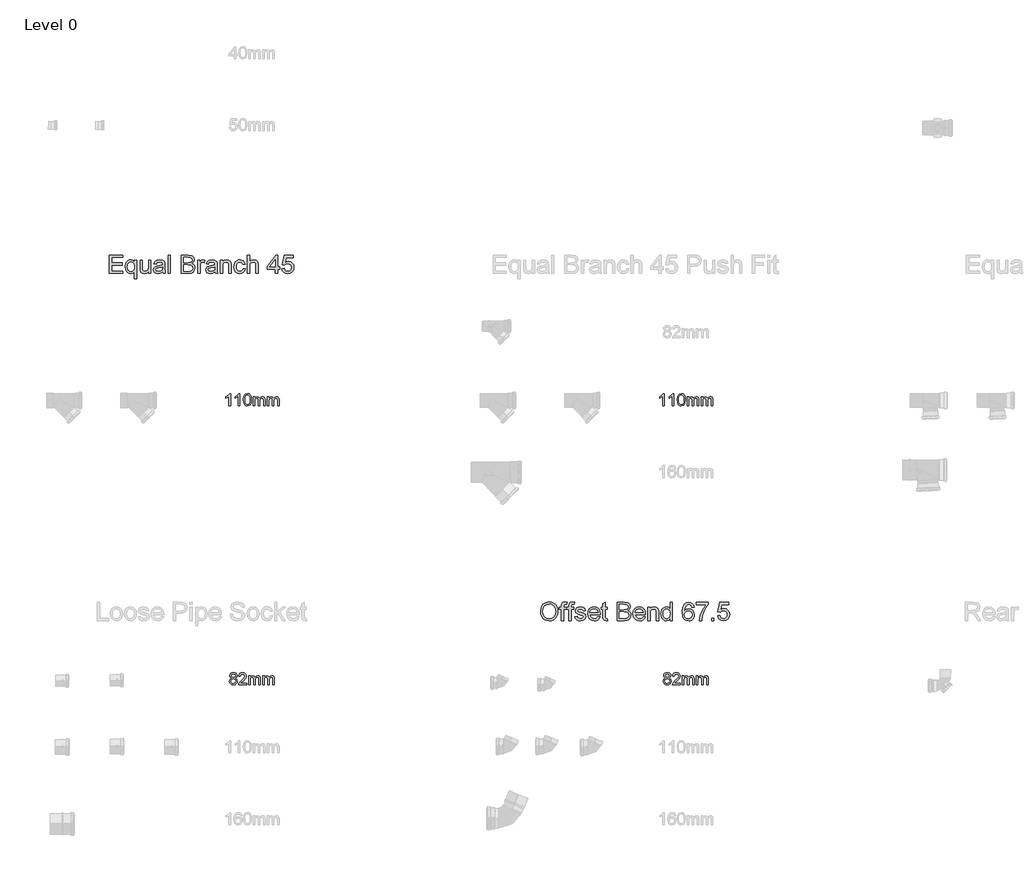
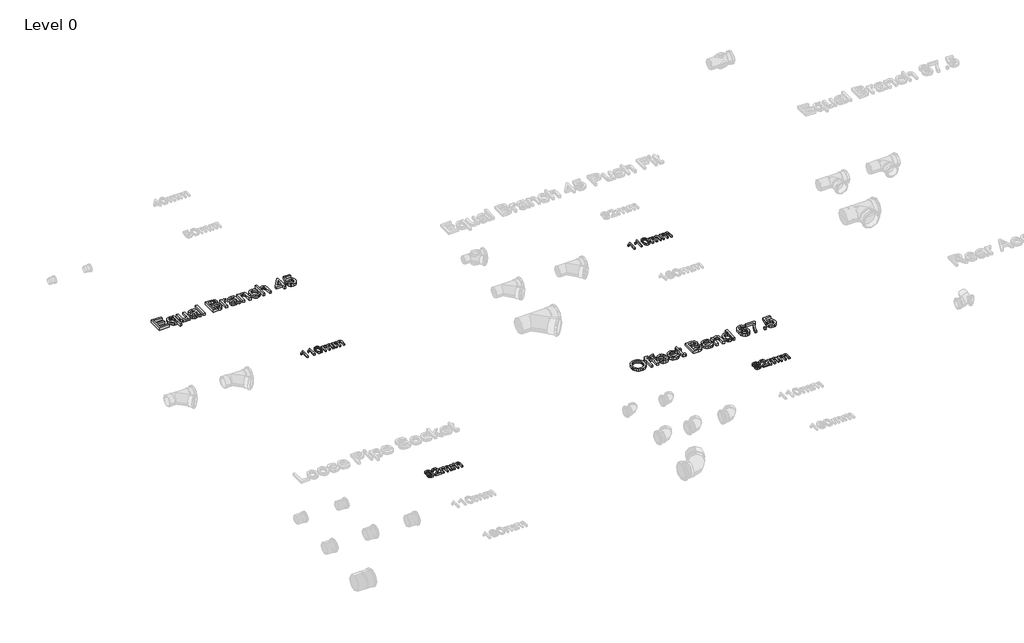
# One storey, part 6 of 23: 6 proxies.
"""IFC4 building model written with IfcOpenShell, lengths in millimetres."""

from ifc_helpers import new_model, si_unit, origin, origin_with_axes, place, context, project, spatial, polyline, outline, extrude, element, save

model = new_model("IFC4")

# Units and contexts
model_context = context("Model", 3, world=origin())
ifc_project = project(units=[si_unit("LENGTHUNIT", "METRE", prefix="MILLI")], contexts=[model_context])

# Site, building, storey
site = spatial("IfcSite", under=ifc_project)
building = spatial("IfcBuilding", under=site)
storey = spatial("IfcBuildingStorey", under=building, Name="Level 0", Elevation=0.0)

# Proxies
placement = place(None, origin())
element("IfcBuildingElementProxy", 1, Name="100mm Arial", ObjectType="100mm Arial", at=placement, inside=storey, context=model_context, shape_type="SweptSolid", body=[
    extrude(outline(polyline([(-20791.7293188, 2637.7167304), (-20804.0370111, 2637.7167304), (-20804.0370111, 2714.4474996), (-20815.6956649, 2706.1422111), (-20828.6523957, 2699.9282688), (-20828.6523957, 2711.5628842), (-20810.6115303, 2723.0773073), (-20799.6620111, 2736.1782688), (-20791.7293188, 2736.1782688), (-20791.7293188, 2637.7167304)])), origin_with_axes(), (0.0, 0.0, 1.0), 15.0),
    extrude(outline(polyline([(-20716.3447034, 2637.7167304), (-20728.6523957, 2637.7167304), (-20728.6523957, 2714.4474996), (-20740.3110495, 2706.1422111), (-20753.2677803, 2699.9282688), (-20753.2677803, 2711.5628842), (-20735.2269149, 2723.0773073), (-20724.2773957, 2736.1782688), (-20716.3447034, 2736.1782688), (-20716.3447034, 2637.7167304)])), origin_with_axes(), (0.0, 0.0, 1.0), 15.0),
    extrude(outline(polyline([(-20687.1139341, 2686.1542304), (-20683.4961457, 2714.4835573), (-20672.7509534, 2730.8176919), (-20654.8062418, 2736.1782688), (-20640.4312418, 2733.0051919), (-20630.5033572, 2723.8585573), (-20624.7341264, 2709.2912496), (-20622.4985495, 2686.1542304), (-20626.0802803, 2657.9450958), (-20636.7894149, 2641.5749035), (-20654.8062418, 2636.1782688), (-20667.5947034, 2638.5220188), (-20677.3062418, 2645.5532688), (-20684.6620111, 2662.2059131), (-20687.1139341, 2686.1542304)]), holes=[polyline([(-20674.8062418, 2686.1782688), (-20673.3639341, 2666.8182929), (-20669.0370111, 2655.613365), (-20662.5947034, 2650.2678121), (-20654.8062418, 2648.4859611), (-20647.0177803, 2650.2738217), (-20640.5754726, 2655.6374035), (-20636.2485495, 2666.848341), (-20634.8062418, 2686.1782688), (-20636.2004726, 2705.1025477), (-20640.3831649, 2716.394615), (-20646.8134534, 2722.0015861), (-20654.9504726, 2723.8705765), (-20662.6547995, 2722.2239419), (-20668.8447034, 2717.2840381), (-20673.3158572, 2705.2888458), (-20674.8062418, 2686.1782688)])]), origin_with_axes(), (0.0, 0.0, 1.0), 15.0),
    extrude(outline(polyline([(-20608.6523957, 2637.7167304), (-20608.6523957, 2710.0244227), (-20596.3447034, 2710.0244227), (-20596.3447034, 2698.1253842), (-20587.8831649, 2707.8729804), (-20575.8398957, 2711.5628842), (-20563.5081649, 2707.800865), (-20556.7293188, 2697.2599996), (-20547.1259534, 2707.9871631), (-20534.9985495, 2711.5628842), (-20525.7467466, 2710.0755044), (-20518.9047995, 2705.613365), (-20514.6770351, 2698.0562736), (-20513.2677803, 2687.2840381), (-20513.2677803, 2637.7167304), (-20525.5754726, 2637.7167304), (-20525.5754726, 2681.9955765), (-20526.7172995, 2692.2720188), (-20530.8519149, 2697.332115), (-20537.8831649, 2699.2551919), (-20549.9865303, 2694.3273073), (-20554.8062418, 2678.5340381), (-20554.8062418, 2637.7167304), (-20567.1139341, 2637.7167304), (-20567.1139341, 2683.3657688), (-20569.9624918, 2695.2888458), (-20579.3014341, 2699.2551919), (-20588.4120111, 2696.6109611), (-20594.4697034, 2688.8705765), (-20596.3447034, 2674.1830765), (-20596.3447034, 2637.7167304), (-20608.6523957, 2637.7167304)])), origin_with_axes(), (0.0, 0.0, 1.0), 15.0),
    extrude(outline(polyline([(-20494.8062418, 2637.7167304), (-20494.8062418, 2710.0244227), (-20482.4985495, 2710.0244227), (-20482.4985495, 2698.1253842), (-20474.0370111, 2707.8729804), (-20461.9937418, 2711.5628842), (-20449.6620111, 2707.800865), (-20442.8831649, 2697.2599996), (-20433.2797995, 2707.9871631), (-20421.1523957, 2711.5628842), (-20411.9005928, 2710.0755044), (-20405.0586457, 2705.613365), (-20400.8308813, 2698.0562736), (-20399.4216264, 2687.2840381), (-20399.4216264, 2637.7167304), (-20411.7293188, 2637.7167304), (-20411.7293188, 2681.9955765), (-20412.8711457, 2692.2720188), (-20417.0057611, 2697.332115), (-20424.0370111, 2699.2551919), (-20436.1403764, 2694.3273073), (-20440.960088, 2678.5340381), (-20440.960088, 2637.7167304), (-20453.2677803, 2637.7167304), (-20453.2677803, 2683.3657688), (-20456.116338, 2695.2888458), (-20465.4552803, 2699.2551919), (-20474.5658572, 2696.6109611), (-20480.6235495, 2688.8705765), (-20482.4985495, 2674.1830765), (-20482.4985495, 2637.7167304), (-20494.8062418, 2637.7167304)])), origin_with_axes(), (0.0, 0.0, 1.0), 15.0),
])
element("IfcBuildingElementProxy", 2, Name="100mm Arial", ObjectType="100mm Arial", at=placement, inside=storey, context=model_context, shape_type="SweptSolid", body=[
    extrude(outline(polyline([(-17291.7293188, 2637.7167304), (-17304.0370111, 2637.7167304), (-17304.0370111, 2714.4474996), (-17315.6956649, 2706.1422111), (-17328.6523957, 2699.9282688), (-17328.6523957, 2711.5628842), (-17310.6115303, 2723.0773073), (-17299.6620111, 2736.1782688), (-17291.7293188, 2736.1782688), (-17291.7293188, 2637.7167304)])), origin_with_axes(), (0.0, 0.0, 1.0), 15.0),
    extrude(outline(polyline([(-17216.3447034, 2637.7167304), (-17228.6523957, 2637.7167304), (-17228.6523957, 2714.4474996), (-17240.3110495, 2706.1422111), (-17253.2677803, 2699.9282688), (-17253.2677803, 2711.5628842), (-17235.2269149, 2723.0773073), (-17224.2773957, 2736.1782688), (-17216.3447034, 2736.1782688), (-17216.3447034, 2637.7167304)])), origin_with_axes(), (0.0, 0.0, 1.0), 15.0),
    extrude(outline(polyline([(-17187.1139341, 2686.1542304), (-17183.4961457, 2714.4835573), (-17172.7509534, 2730.8176919), (-17154.8062418, 2736.1782688), (-17140.4312418, 2733.0051919), (-17130.5033572, 2723.8585573), (-17124.7341264, 2709.2912496), (-17122.4985495, 2686.1542304), (-17126.0802803, 2657.9450958), (-17136.7894149, 2641.5749035), (-17154.8062418, 2636.1782688), (-17167.5947034, 2638.5220188), (-17177.3062418, 2645.5532688), (-17184.6620111, 2662.2059131), (-17187.1139341, 2686.1542304)]), holes=[polyline([(-17174.8062418, 2686.1782688), (-17173.3639341, 2666.8182929), (-17169.0370111, 2655.613365), (-17162.5947034, 2650.2678121), (-17154.8062418, 2648.4859611), (-17147.0177803, 2650.2738217), (-17140.5754726, 2655.6374035), (-17136.2485495, 2666.848341), (-17134.8062418, 2686.1782688), (-17136.2004726, 2705.1025477), (-17140.3831649, 2716.394615), (-17146.8134534, 2722.0015861), (-17154.9504726, 2723.8705765), (-17162.6547995, 2722.2239419), (-17168.8447034, 2717.2840381), (-17173.3158572, 2705.2888458), (-17174.8062418, 2686.1782688)])]), origin_with_axes(), (0.0, 0.0, 1.0), 15.0),
    extrude(outline(polyline([(-17108.6523957, 2637.7167304), (-17108.6523957, 2710.0244227), (-17096.3447034, 2710.0244227), (-17096.3447034, 2698.1253842), (-17087.8831649, 2707.8729804), (-17075.8398957, 2711.5628842), (-17063.5081649, 2707.800865), (-17056.7293188, 2697.2599996), (-17047.1259534, 2707.9871631), (-17034.9985495, 2711.5628842), (-17025.7467466, 2710.0755044), (-17018.9047995, 2705.613365), (-17014.6770351, 2698.0562736), (-17013.2677803, 2687.2840381), (-17013.2677803, 2637.7167304), (-17025.5754726, 2637.7167304), (-17025.5754726, 2681.9955765), (-17026.7172995, 2692.2720188), (-17030.8519149, 2697.332115), (-17037.8831649, 2699.2551919), (-17049.9865303, 2694.3273073), (-17054.8062418, 2678.5340381), (-17054.8062418, 2637.7167304), (-17067.1139341, 2637.7167304), (-17067.1139341, 2683.3657688), (-17069.9624918, 2695.2888458), (-17079.3014341, 2699.2551919), (-17088.4120111, 2696.6109611), (-17094.4697034, 2688.8705765), (-17096.3447034, 2674.1830765), (-17096.3447034, 2637.7167304), (-17108.6523957, 2637.7167304)])), origin_with_axes(), (0.0, 0.0, 1.0), 15.0),
    extrude(outline(polyline([(-16994.8062418, 2637.7167304), (-16994.8062418, 2710.0244227), (-16982.4985495, 2710.0244227), (-16982.4985495, 2698.1253842), (-16974.0370111, 2707.8729804), (-16961.9937418, 2711.5628842), (-16949.6620111, 2707.800865), (-16942.8831649, 2697.2599996), (-16933.2797995, 2707.9871631), (-16921.1523957, 2711.5628842), (-16911.9005928, 2710.0755044), (-16905.0586457, 2705.613365), (-16900.8308813, 2698.0562736), (-16899.4216264, 2687.2840381), (-16899.4216264, 2637.7167304), (-16911.7293188, 2637.7167304), (-16911.7293188, 2681.9955765), (-16912.8711457, 2692.2720188), (-16917.0057611, 2697.332115), (-16924.0370111, 2699.2551919), (-16936.1403764, 2694.3273073), (-16940.960088, 2678.5340381), (-16940.960088, 2637.7167304), (-16953.2677803, 2637.7167304), (-16953.2677803, 2683.3657688), (-16956.116338, 2695.2888458), (-16965.4552803, 2699.2551919), (-16974.5658572, 2696.6109611), (-16980.6235495, 2688.8705765), (-16982.4985495, 2674.1830765), (-16982.4985495, 2637.7167304), (-16994.8062418, 2637.7167304)])), origin_with_axes(), (0.0, 0.0, 1.0), 15.0),
])
element("IfcBuildingElementProxy", 3, Name="100mm Arial", ObjectType="100mm Arial", at=placement, inside=storey, context=model_context, shape_type="SweptSolid", body=[
    extrude(outline(polyline([(-20782.2581649, 440.881174), (-20793.4721072, 448.5254048), (-20797.1139341, 460.4244433), (-20795.1307611, 470.0458375), (-20789.1812418, 477.9965587), (-20779.9324438, 483.3330971), (-20768.0514341, 485.1119433), (-20756.0983091, 483.2910298), (-20746.7293188, 477.8282894), (-20740.6716264, 469.7513663), (-20738.6523957, 460.0879048), (-20742.2461457, 448.4893471), (-20753.147588, 440.881174), (-20740.0586457, 431.2297317), (-20735.5754726, 415.304251), (-20737.7990303, 403.537424), (-20744.4697034, 393.8138663), (-20754.7701841, 387.287424), (-20767.8831649, 385.1119433), (-20780.9961457, 387.2964385), (-20791.2966264, 393.849924), (-20797.9672995, 403.6666308), (-20800.1908572, 415.6407894), (-20795.5273957, 431.9388663), (-20782.2581649, 440.881174)]), holes=[polyline([(-20784.8062418, 460.0638663), (-20780.4432611, 450.4004048), (-20767.7389341, 446.6504048), (-20755.2870111, 450.3763663), (-20750.960088, 459.5109817), (-20755.4312418, 468.9701163), (-20767.8831649, 472.804251), (-20780.3711457, 469.054251), (-20784.8062418, 460.0638663)]), polyline([(-20787.8831649, 416.0734817), (-20785.8278764, 406.8066548), (-20778.5562418, 399.8715587), (-20767.7870111, 397.4196356), (-20753.1235495, 402.5758856), (-20747.8831649, 415.6888663), (-20753.2918188, 429.054251), (-20759.7221072, 433.0205971), (-20768.1956649, 434.3427125), (-20782.678838, 429.1263663), (-20787.8831649, 416.0734817)])]), origin_with_axes(), (0.0, 0.0, 1.0), 15.0),
    extrude(outline(polyline([(-20661.7293188, 398.9580971), (-20661.7293188, 386.6504048), (-20726.3447034, 386.6504048), (-20725.022588, 395.1359817), (-20717.5466264, 408.2008856), (-20702.1379726, 422.4677125), (-20680.8879726, 442.9725202), (-20675.5754726, 456.9148279), (-20680.5874918, 468.2008856), (-20693.6764341, 472.804251), (-20707.3182611, 468.3090587), (-20712.4985495, 455.881174), (-20724.8062418, 457.4196356), (-20721.8224678, 469.3246837), (-20715.3711457, 478.0205971), (-20705.7888139, 483.3391067), (-20693.4120111, 485.1119433), (-20680.9450639, 483.1407894), (-20671.3807611, 477.2273279), (-20665.2960255, 468.3931933), (-20663.2677803, 457.6600202), (-20665.4552803, 445.9893471), (-20672.7269149, 433.9220394), (-20690.3591264, 417.0590587), (-20704.5177803, 405.2201163), (-20710.0706649, 398.9580971), (-20661.7293188, 398.9580971)])), origin_with_axes(), (0.0, 0.0, 1.0), 15.0),
    extrude(outline(polyline([(-20646.3447034, 386.6504048), (-20646.3447034, 458.9580971), (-20634.0370111, 458.9580971), (-20634.0370111, 447.0590587), (-20625.5754726, 456.8066548), (-20613.5322034, 460.4965587), (-20601.2004726, 456.7345394), (-20594.4216264, 446.193674), (-20584.8182611, 456.9208375), (-20572.6908572, 460.4965587), (-20563.4390543, 459.0091788), (-20556.5971072, 454.5470394), (-20552.3693428, 446.9899481), (-20550.960088, 436.2177125), (-20550.960088, 386.6504048), (-20563.2677803, 386.6504048), (-20563.2677803, 430.929251), (-20564.4096072, 441.2056933), (-20568.5442226, 446.2657894), (-20575.5754726, 448.1888663), (-20587.678838, 443.2609817), (-20592.4985495, 427.4677125), (-20592.4985495, 386.6504048), (-20604.8062418, 386.6504048), (-20604.8062418, 432.2994433), (-20607.6547995, 444.2225202), (-20616.9937418, 448.1888663), (-20626.1043188, 445.5446356), (-20632.1620111, 437.804251), (-20634.0370111, 423.116751), (-20634.0370111, 386.6504048), (-20646.3447034, 386.6504048)])), origin_with_axes(), (0.0, 0.0, 1.0), 15.0),
    extrude(outline(polyline([(-20532.4985495, 386.6504048), (-20532.4985495, 458.9580971), (-20520.1908572, 458.9580971), (-20520.1908572, 447.0590587), (-20511.7293188, 456.8066548), (-20499.6860495, 460.4965587), (-20487.3543188, 456.7345394), (-20480.5754726, 446.193674), (-20470.9721072, 456.9208375), (-20458.8447034, 460.4965587), (-20449.5929005, 459.0091788), (-20442.7509534, 454.5470394), (-20438.5231889, 446.9899481), (-20437.1139341, 436.2177125), (-20437.1139341, 386.6504048), (-20449.4216264, 386.6504048), (-20449.4216264, 430.929251), (-20450.5634534, 441.2056933), (-20454.6980688, 446.2657894), (-20461.7293188, 448.1888663), (-20473.8326841, 443.2609817), (-20478.6523957, 427.4677125), (-20478.6523957, 386.6504048), (-20490.960088, 386.6504048), (-20490.960088, 432.2994433), (-20493.8086457, 444.2225202), (-20503.147588, 448.1888663), (-20512.2581649, 445.5446356), (-20518.3158572, 437.804251), (-20520.1908572, 423.116751), (-20520.1908572, 386.6504048), (-20532.4985495, 386.6504048)])), origin_with_axes(), (0.0, 0.0, 1.0), 15.0),
])
element("IfcBuildingElementProxy", 4, Name="100mm Arial", ObjectType="100mm Arial", at=placement, inside=storey, context=model_context, shape_type="SweptSolid", body=[
    extrude(outline(polyline([(-17282.2581649, 440.881174), (-17293.4721072, 448.5254048), (-17297.1139341, 460.4244433), (-17295.1307611, 470.0458375), (-17289.1812418, 477.9965587), (-17279.9324438, 483.3330971), (-17268.0514341, 485.1119433), (-17256.0983091, 483.2910298), (-17246.7293188, 477.8282894), (-17240.6716264, 469.7513663), (-17238.6523957, 460.0879048), (-17242.2461457, 448.4893471), (-17253.147588, 440.881174), (-17240.0586457, 431.2297317), (-17235.5754726, 415.304251), (-17237.7990303, 403.537424), (-17244.4697034, 393.8138663), (-17254.7701841, 387.287424), (-17267.8831649, 385.1119433), (-17280.9961457, 387.2964385), (-17291.2966264, 393.849924), (-17297.9672995, 403.6666308), (-17300.1908572, 415.6407894), (-17295.5273957, 431.9388663), (-17282.2581649, 440.881174)]), holes=[polyline([(-17284.8062418, 460.0638663), (-17280.4432611, 450.4004048), (-17267.7389341, 446.6504048), (-17255.2870111, 450.3763663), (-17250.960088, 459.5109817), (-17255.4312418, 468.9701163), (-17267.8831649, 472.804251), (-17280.3711457, 469.054251), (-17284.8062418, 460.0638663)]), polyline([(-17287.8831649, 416.0734817), (-17285.8278764, 406.8066548), (-17278.5562418, 399.8715587), (-17267.7870111, 397.4196356), (-17253.1235495, 402.5758856), (-17247.8831649, 415.6888663), (-17253.2918188, 429.054251), (-17259.7221072, 433.0205971), (-17268.1956649, 434.3427125), (-17282.678838, 429.1263663), (-17287.8831649, 416.0734817)])]), origin_with_axes(), (0.0, 0.0, 1.0), 15.0),
    extrude(outline(polyline([(-17161.7293188, 398.9580971), (-17161.7293188, 386.6504048), (-17226.3447034, 386.6504048), (-17225.022588, 395.1359817), (-17217.5466264, 408.2008856), (-17202.1379726, 422.4677125), (-17180.8879726, 442.9725202), (-17175.5754726, 456.9148279), (-17180.5874918, 468.2008856), (-17193.6764341, 472.804251), (-17207.3182611, 468.3090587), (-17212.4985495, 455.881174), (-17224.8062418, 457.4196356), (-17221.8224678, 469.3246837), (-17215.3711457, 478.0205971), (-17205.7888139, 483.3391067), (-17193.4120111, 485.1119433), (-17180.9450639, 483.1407894), (-17171.3807611, 477.2273279), (-17165.2960255, 468.3931933), (-17163.2677803, 457.6600202), (-17165.4552803, 445.9893471), (-17172.7269149, 433.9220394), (-17190.3591264, 417.0590587), (-17204.5177803, 405.2201163), (-17210.0706649, 398.9580971), (-17161.7293188, 398.9580971)])), origin_with_axes(), (0.0, 0.0, 1.0), 15.0),
    extrude(outline(polyline([(-17146.3447034, 386.6504048), (-17146.3447034, 458.9580971), (-17134.0370111, 458.9580971), (-17134.0370111, 447.0590587), (-17125.5754726, 456.8066548), (-17113.5322034, 460.4965587), (-17101.2004726, 456.7345394), (-17094.4216264, 446.193674), (-17084.8182611, 456.9208375), (-17072.6908572, 460.4965587), (-17063.4390543, 459.0091788), (-17056.5971072, 454.5470394), (-17052.3693428, 446.9899481), (-17050.960088, 436.2177125), (-17050.960088, 386.6504048), (-17063.2677803, 386.6504048), (-17063.2677803, 430.929251), (-17064.4096072, 441.2056933), (-17068.5442226, 446.2657894), (-17075.5754726, 448.1888663), (-17087.678838, 443.2609817), (-17092.4985495, 427.4677125), (-17092.4985495, 386.6504048), (-17104.8062418, 386.6504048), (-17104.8062418, 432.2994433), (-17107.6547995, 444.2225202), (-17116.9937418, 448.1888663), (-17126.1043188, 445.5446356), (-17132.1620111, 437.804251), (-17134.0370111, 423.116751), (-17134.0370111, 386.6504048), (-17146.3447034, 386.6504048)])), origin_with_axes(), (0.0, 0.0, 1.0), 15.0),
    extrude(outline(polyline([(-17032.4985495, 386.6504048), (-17032.4985495, 458.9580971), (-17020.1908572, 458.9580971), (-17020.1908572, 447.0590587), (-17011.7293188, 456.8066548), (-16999.6860495, 460.4965587), (-16987.3543188, 456.7345394), (-16980.5754726, 446.193674), (-16970.9721072, 456.9208375), (-16958.8447034, 460.4965587), (-16949.5929005, 459.0091788), (-16942.7509534, 454.5470394), (-16938.5231889, 446.9899481), (-16937.1139341, 436.2177125), (-16937.1139341, 386.6504048), (-16949.4216264, 386.6504048), (-16949.4216264, 430.929251), (-16950.5634534, 441.2056933), (-16954.6980688, 446.2657894), (-16961.7293188, 448.1888663), (-16973.8326841, 443.2609817), (-16978.6523957, 427.4677125), (-16978.6523957, 386.6504048), (-16990.960088, 386.6504048), (-16990.960088, 432.2994433), (-16993.8086457, 444.2225202), (-17003.147588, 448.1888663), (-17012.2581649, 445.5446356), (-17018.3158572, 437.804251), (-17020.1908572, 423.116751), (-17020.1908572, 386.6504048), (-17032.4985495, 386.6504048)])), origin_with_axes(), (0.0, 0.0, 1.0), 15.0),
])
element("IfcBuildingElementProxy", 5, Name="150mm Arial", ObjectType="150mm Arial", at=placement, inside=storey, context=model_context, shape_type="SweptSolid", body=[
    extrude(outline(polyline([(-21768.6818358, 3705.2145219), (-21768.6818358, 3852.9068296), (-21662.5279897, 3852.9068296), (-21662.5279897, 3834.4452911), (-21750.2202973, 3834.4452911), (-21750.2202973, 3790.5991373), (-21667.1433743, 3790.5991373), (-21667.1433743, 3772.1375988), (-21750.2202973, 3772.1375988), (-21750.2202973, 3723.6760604), (-21660.2202973, 3723.6760604), (-21660.2202973, 3705.2145219), (-21768.6818358, 3705.2145219)])), origin_with_axes(), (0.0, 0.0, 1.0), 25.0),
    extrude(outline(polyline([(-21567.912605, 3663.6760604), (-21567.912605, 3719.9981758), (-21579.631355, 3707.7746181), (-21595.6409704, 3702.9068296), (-21613.1920522, 3706.7514811), (-21628.1289512, 3718.2854354), (-21638.351307, 3736.5171061), (-21641.7587589, 3760.4549065), (-21636.350105, 3789.697695), (-21629.7245041, 3801.0738969), (-21620.6650089, 3809.3130796), (-21609.8927733, 3814.3160844), (-21598.1289512, 3815.9837527), (-21580.9654897, 3810.8094738), (-21567.912605, 3795.2866373), (-21567.912605, 3813.6760604), (-21549.4510666, 3813.6760604), (-21549.4510666, 3663.6760604), (-21567.912605, 3663.6760604)]), holes=[polyline([(-21623.2972204, 3759.4452911), (-21621.2193959, 3742.7866373), (-21614.9859223, 3730.8875988), (-21605.8498046, 3723.7481758), (-21595.0640473, 3721.3683681), (-21584.7290113, 3723.6309883), (-21575.9354416, 3730.4188488), (-21569.9183142, 3741.8311085), (-21567.912605, 3757.9669258), (-21570.0264872, 3775.2160243), (-21576.3681339, 3787.58832), (-21585.5583382, 3795.0387407), (-21596.2178935, 3797.5222142), (-21606.6791315, 3795.2100147), (-21615.4186147, 3788.2734161), (-21621.327569, 3776.4419859), (-21623.2972204, 3759.4452911)])]), origin_with_axes(), (0.0, 0.0, 1.0), 25.0),
    extrude(outline(polyline([(-21452.5279897, 3705.2145219), (-21452.5279897, 3723.8563488), (-21466.9871243, 3708.1442094), (-21485.8452973, 3702.9068296), (-21503.2070762, 3706.5847142), (-21515.17823, 3715.8154835), (-21520.6770281, 3729.4092335), (-21521.7587589, 3746.572695), (-21521.7587589, 3813.6760604), (-21503.2972204, 3813.6760604), (-21503.2972204, 3755.2625988), (-21502.179432, 3736.4404835), (-21494.8777493, 3725.3888008), (-21481.1217397, 3721.3683681), (-21465.7070762, 3725.478945), (-21455.5207781, 3736.6748585), (-21452.5279897, 3757.2457719), (-21452.5279897, 3813.6760604), (-21434.0664512, 3813.6760604), (-21434.0664512, 3705.2145219), (-21452.5279897, 3705.2145219)])), origin_with_axes(), (0.0, 0.0, 1.0), 25.0),
    extrude(outline(polyline([(-21339.4510666, 3719.0606758), (-21357.3537108, 3706.5486565), (-21377.131355, 3702.9068296), (-21392.5595401, 3705.0973344), (-21403.9402493, 3711.6688488), (-21410.9579776, 3721.6478152), (-21413.2972204, 3734.0606758), (-21409.7635666, 3748.6640411), (-21400.4787108, 3759.2650027), (-21387.5520281, 3765.322695), (-21371.5784704, 3768.0991373), (-21339.5592397, 3774.4452911), (-21339.4510666, 3778.5558681), (-21340.7221002, 3786.7950508), (-21344.5352012, 3792.1856758), (-21353.0628454, 3796.1880796), (-21364.943855, 3797.5222142), (-21383.6217397, 3793.9705315), (-21392.5279897, 3781.3683681), (-21410.9895281, 3783.6760604), (-21403.0027493, 3801.7049065), (-21386.9210185, 3812.2698104), (-21362.5640473, 3815.9837527), (-21340.1902493, 3812.7025027), (-21327.5520281, 3804.46332), (-21321.8909704, 3791.9332719), (-21320.9895281, 3775.7794258), (-21320.9895281, 3752.8106758), (-21320.0520281, 3720.7373585), (-21316.3741435, 3705.2145219), (-21334.835682, 3705.2145219), (-21339.4510666, 3719.0606758)]), holes=[polyline([(-21339.4510666, 3755.9837527), (-21369.2347204, 3750.322695), (-21385.1181339, 3747.3299065), (-21392.3116435, 3742.4621181), (-21394.835682, 3735.3587527), (-21389.3368839, 3725.3707719), (-21373.2010666, 3721.3683681), (-21354.523182, 3725.7854354), (-21342.4799127, 3736.4765411), (-21339.5592397, 3750.7553873), (-21339.4510666, 3755.9837527)])]), origin_with_axes(), (0.0, 0.0, 1.0), 25.0),
    extrude(outline(polyline([(-21295.6049127, 3705.2145219), (-21295.6049127, 3852.9068296), (-21277.1433743, 3852.9068296), (-21277.1433743, 3705.2145219), (-21295.6049127, 3705.2145219)])), origin_with_axes(), (0.0, 0.0, 1.0), 25.0),
    extrude(outline(polyline([(-21189.4510666, 3705.2145219), (-21189.4510666, 3852.9068296), (-21133.0928935, 3852.9068296), (-21105.49073, 3848.5618777), (-21096.2148887, 3843.049558), (-21089.1926531, 3835.2025027), (-21083.2972204, 3816.3082719), (-21088.2551531, 3799.0546661), (-21103.2371243, 3785.9837527), (-21092.7758863, 3780.5210123), (-21085.0460185, 3772.2097142), (-21080.2728815, 3761.5997383), (-21078.6818358, 3749.2409642), (-21083.0267877, 3729.3912046), (-21093.7900089, 3715.2565892), (-21109.8537108, 3707.7565892), (-21133.5255858, 3705.2145219), (-21189.4510666, 3705.2145219)]), holes=[polyline([(-21170.9895281, 3723.6760604), (-21133.1289512, 3723.6760604), (-21119.4270281, 3724.3972142), (-21107.83448, 3728.4176469), (-21100.1541916, 3736.6207719), (-21097.1433743, 3749.0606758), (-21100.6770281, 3763.4116373), (-21112.1253454, 3771.9753392), (-21134.9318358, 3774.4452911), (-21170.9895281, 3774.4452911), (-21170.9895281, 3723.6760604)]), polyline([(-21170.9895281, 3792.9068296), (-21137.2755858, 3792.9068296), (-21117.5880858, 3794.4933681), (-21105.7431339, 3801.3263008), (-21101.7587589, 3813.3515411), (-21105.4727012, 3825.3948104), (-21116.1097204, 3832.5162046), (-21139.835682, 3834.4452911), (-21170.9895281, 3834.4452911), (-21170.9895281, 3792.9068296)])]), origin_with_axes(), (0.0, 0.0, 1.0), 25.0),
    extrude(outline(polyline([(-21055.6049127, 3705.2145219), (-21055.6049127, 3813.6760604), (-21039.4510666, 3813.6760604), (-21039.4510666, 3797.6303873), (-21027.9847204, 3812.4140411), (-21016.4462589, 3815.9837527), (-20997.912605, 3810.2866373), (-21004.0784704, 3793.7361565), (-21017.0592397, 3797.5222142), (-21027.4979416, 3793.8803873), (-21034.1505858, 3783.7842335), (-21037.1433743, 3762.2217335), (-21037.1433743, 3705.2145219), (-21055.6049127, 3705.2145219)])), origin_with_axes(), (0.0, 0.0, 1.0), 25.0),
    extrude(outline(polyline([(-20917.1433743, 3719.0606758), (-20935.0460185, 3706.5486565), (-20954.8236627, 3702.9068296), (-20970.2518478, 3705.0973344), (-20981.632557, 3711.6688488), (-20988.6502853, 3721.6478152), (-20990.9895281, 3734.0606758), (-20987.4558743, 3748.6640411), (-20978.1710185, 3759.2650027), (-20965.2443358, 3765.322695), (-20949.2707781, 3768.0991373), (-20917.2515473, 3774.4452911), (-20917.1433743, 3778.5558681), (-20918.4144079, 3786.7950508), (-20922.2275089, 3792.1856758), (-20930.7551531, 3796.1880796), (-20942.6361627, 3797.5222142), (-20961.3140473, 3793.9705315), (-20970.2202973, 3781.3683681), (-20988.6818358, 3783.6760604), (-20980.695057, 3801.7049065), (-20964.6133262, 3812.2698104), (-20940.256355, 3815.9837527), (-20917.882557, 3812.7025027), (-20905.2443358, 3804.46332), (-20899.5832781, 3791.9332719), (-20898.6818358, 3775.7794258), (-20898.6818358, 3752.8106758), (-20897.7443358, 3720.7373585), (-20894.0664512, 3705.2145219), (-20912.5279897, 3705.2145219), (-20917.1433743, 3719.0606758)]), holes=[polyline([(-20917.1433743, 3755.9837527), (-20946.9270281, 3750.322695), (-20962.8104416, 3747.3299065), (-20970.0039512, 3742.4621181), (-20972.5279897, 3735.3587527), (-20967.0291916, 3725.3707719), (-20950.8933743, 3721.3683681), (-20932.2154897, 3725.7854354), (-20920.1722204, 3736.4765411), (-20917.2515473, 3750.7553873), (-20917.1433743, 3755.9837527)])]), origin_with_axes(), (0.0, 0.0, 1.0), 25.0),
    extrude(outline(polyline([(-20873.2972204, 3705.2145219), (-20873.2972204, 3813.6760604), (-20854.835682, 3813.6760604), (-20854.835682, 3798.5318296), (-20840.7190954, 3811.6207719), (-20821.4462589, 3815.9837527), (-20804.0123647, 3812.4681277), (-20792.1133262, 3803.2373585), (-20786.5784704, 3789.6616373), (-20785.6049127, 3771.8130796), (-20785.6049127, 3705.2145219), (-20804.0664512, 3705.2145219), (-20804.0664512, 3769.3250988), (-20806.193855, 3785.6592335), (-20813.7118839, 3794.2950508), (-20826.3861627, 3797.5222142), (-20837.1989632, 3795.7103152), (-20846.4162108, 3790.2746181), (-20852.7308142, 3779.7728152), (-20854.835682, 3762.7625988), (-20854.835682, 3705.2145219), (-20873.2972204, 3705.2145219)])), origin_with_axes(), (0.0, 0.0, 1.0), 25.0),
    extrude(outline(polyline([(-20690.9895281, 3744.4452911), (-20672.5279897, 3742.1375988), (-20677.6752252, 3725.7178272), (-20687.3477012, 3713.3094738), (-20700.6349608, 3705.5074907), (-20716.6265473, 3702.9068296), (-20736.264468, 3706.5351349), (-20751.6205377, 3717.4200508), (-20761.5318959, 3735.0838128), (-20764.835682, 3759.0486565), (-20759.1926531, 3789.7157238), (-20752.0712589, 3801.2136205), (-20741.9931339, 3809.4212527), (-20729.936343, 3814.3431277), (-20716.8789512, 3815.9837527), (-20701.2794921, 3813.7301469), (-20688.8080377, 3806.9693296), (-20679.8612228, 3796.0618777), (-20674.835682, 3781.3683681), (-20693.2972204, 3779.0606758), (-20701.8609223, 3792.8888008), (-20716.7347204, 3797.5222142), (-20728.6653094, 3795.2415652), (-20738.1349608, 3788.3996181), (-20744.3143478, 3776.6267815), (-20746.3741435, 3759.5534642), (-20744.3594199, 3742.2502791), (-20738.3152493, 3730.4368777), (-20729.0168719, 3723.6354955), (-20717.2395281, 3721.3683681), (-20707.6797324, 3722.7836325), (-20699.8416916, 3727.0294258), (-20694.140069, 3734.213921), (-20690.9895281, 3744.4452911)])), origin_with_axes(), (0.0, 0.0, 1.0), 25.0),
    extrude(outline(polyline([(-20656.3741435, 3705.2145219), (-20656.3741435, 3852.9068296), (-20637.912605, 3852.9068296), (-20637.912605, 3798.603945), (-20623.5165714, 3811.6388008), (-20605.7852012, 3815.9837527), (-20585.0520281, 3811.2421661), (-20572.4678935, 3798.135195), (-20568.6818358, 3773.8683681), (-20568.6818358, 3705.2145219), (-20587.1433743, 3705.2145219), (-20587.1433743, 3771.9573104), (-20588.6127252, 3783.5138008), (-20593.0207781, 3791.4284642), (-20600.1241435, 3795.9987767), (-20609.679432, 3797.5222142), (-20624.8056339, 3793.4116373), (-20634.9017877, 3782.2698104), (-20637.912605, 3762.8347142), (-20637.912605, 3705.2145219), (-20656.3741435, 3705.2145219)])), origin_with_axes(), (0.0, 0.0, 1.0), 25.0),
    extrude(outline(polyline([(-20430.2202973, 3705.2145219), (-20430.2202973, 3739.8299065), (-20497.1433743, 3739.8299065), (-20497.1433743, 3758.291445), (-20425.6049127, 3850.5991373), (-20411.7587589, 3850.5991373), (-20411.7587589, 3758.291445), (-20393.2972204, 3758.291445), (-20393.2972204, 3739.8299065), (-20411.7587589, 3739.8299065), (-20411.7587589, 3705.2145219), (-20430.2202973, 3705.2145219)]), holes=[polyline([(-20430.2202973, 3758.291445), (-20430.2202973, 3815.3347142), (-20474.4270281, 3758.291445), (-20430.2202973, 3758.291445)])]), origin_with_axes(), (0.0, 0.0, 1.0), 25.0),
    extrude(outline(polyline([(-20377.1433743, 3744.4452911), (-20358.6818358, 3746.7529835), (-20355.2924127, 3735.6697503), (-20349.3789512, 3727.7325508), (-20340.9684945, 3722.9594137), (-20330.0880858, 3721.3683681), (-20316.8549127, 3723.5814089), (-20306.9390473, 3730.2205315), (-20300.7461387, 3740.5195099), (-20298.6818358, 3753.7121181), (-20300.6154296, 3766.1339931), (-20306.4162108, 3775.635195), (-20316.1292517, 3781.665844), (-20329.7996243, 3783.6760604), (-20346.007557, 3780.4669258), (-20356.3741435, 3772.1375988), (-20374.835682, 3774.4452911), (-20358.6818358, 3850.5991373), (-20287.1433743, 3850.5991373), (-20287.1433743, 3832.1375988), (-20343.7539512, 3832.1375988), (-20351.6505858, 3791.4645219), (-20338.4624848, 3799.4693296), (-20324.6433743, 3802.1375988), (-20307.3942757, 3798.8293056), (-20293.0748647, 3788.9044258), (-20283.4339392, 3773.7782238), (-20280.2202973, 3754.8659642), (-20283.1139272, 3736.4044258), (-20291.7948166, 3720.6111565), (-20308.4174127, 3707.3329113), (-20330.1602012, 3702.9068296), (-20348.2927132, 3705.7508801), (-20362.7383262, 3714.2830315), (-20372.6406699, 3727.5116974), (-20377.1433743, 3744.4452911)])), origin_with_axes(), (0.0, 0.0, 1.0), 25.0),
])
element("IfcBuildingElementProxy", 6, Name="150mm Arial", ObjectType="150mm Arial", at=placement, inside=storey, context=model_context, shape_type="SweptSolid", body=[
    extrude(outline(polyline([(-18290.6049127, 977.1135604), (-18285.6830377, 1009.7728152), (-18270.9174127, 1034.4813488), (-18248.3723406, 1050.0312286), (-18220.1121243, 1055.2145219), (-18200.7401291, 1052.7806277), (-18183.3693358, 1045.478945), (-18168.9462589, 1033.823296), (-18158.4174127, 1018.3275027), (-18151.9811147, 999.7397623), (-18149.835682, 978.8082719), (-18152.0937949, 957.5973344), (-18158.8681339, 938.7481758), (-18169.7846002, 923.2253392), (-18184.4690954, 911.9933681), (-18201.6911507, 905.1784642), (-18220.2202973, 902.9068296), (-18239.8897685, 905.4173464), (-18257.3597204, 912.9488969), (-18271.7467397, 924.8208921), (-18282.1674127, 940.3527431), (-18288.4955377, 958.2238368), (-18290.6049127, 977.1135604)]), holes=[polyline([(-18272.1433743, 976.9332719), (-18268.451968, 953.8293056), (-18257.3777493, 936.2241373), (-18240.7326171, 925.0823104), (-18220.3284704, 921.3683681), (-18199.6268478, 925.1183681), (-18182.9546723, 936.3683681), (-18171.9615834, 954.5144017), (-18168.2972204, 978.9525027), (-18169.86573, 995.2956517), (-18174.5712589, 1009.4212527), (-18182.2921122, 1020.9732359), (-18192.9065954, 1029.5955315), (-18205.7115834, 1034.9636205), (-18220.0039512, 1036.7529835), (-18239.8627252, 1033.3049666), (-18256.7467397, 1022.9609161), (-18268.2942156, 1004.5579714), (-18272.1433743, 976.9332719)])]), origin_with_axes(), (0.0, 0.0, 1.0), 25.0),
    extrude(outline(polyline([(-18122.1433743, 905.2145219), (-18122.1433743, 995.2145219), (-18138.2972204, 995.2145219), (-18138.2972204, 1013.6760604), (-18122.1433743, 1013.6760604), (-18122.1433743, 1024.6015411), (-18120.1962589, 1039.9981758), (-18110.7491435, 1050.9957719), (-18092.1433743, 1055.2145219), (-18075.304432, 1053.1952911), (-18078.0087589, 1035.8875988), (-18088.6457781, 1036.7529835), (-18100.2743839, 1033.6880796), (-18103.6818358, 1022.2577911), (-18103.6818358, 1013.6760604), (-18082.912605, 1013.6760604), (-18082.912605, 995.2145219), (-18103.6818358, 995.2145219), (-18103.6818358, 905.2145219), (-18122.1433743, 905.2145219)])), origin_with_axes(), (0.0, 0.0, 1.0), 25.0),
    extrude(outline(polyline([(-18062.1433743, 905.2145219), (-18062.1433743, 995.2145219), (-18078.2972204, 995.2145219), (-18078.2972204, 1013.6760604), (-18062.1433743, 1013.6760604), (-18062.1433743, 1024.6015411), (-18060.1962589, 1039.9981758), (-18050.7491435, 1050.9957719), (-18032.1433743, 1055.2145219), (-18015.304432, 1053.1952911), (-18018.0087589, 1035.8875988), (-18028.6457781, 1036.7529835), (-18040.2743839, 1033.6880796), (-18043.6818358, 1022.2577911), (-18043.6818358, 1013.6760604), (-18022.912605, 1013.6760604), (-18022.912605, 995.2145219), (-18043.6818358, 995.2145219), (-18043.6818358, 905.2145219), (-18062.1433743, 905.2145219)])), origin_with_axes(), (0.0, 0.0, 1.0), 25.0),
    extrude(outline(polyline([(-18013.6818358, 937.5222142), (-17995.2202973, 939.8299065), (-17992.3086387, 931.9332719), (-17986.6746243, 926.1279835), (-17967.0952973, 921.3683681), (-17948.273182, 925.7313488), (-17942.1433743, 935.9717335), (-17948.3092397, 944.2650027), (-17967.3116435, 949.5294258), (-17995.1121243, 958.5618777), (-18007.2455377, 969.1087527), (-18011.3741435, 984.0005796), (-18008.0568358, 997.7565892), (-17999.006355, 1008.2674065), (-17987.2695762, 1013.7301469), (-17971.3861627, 1015.9837527), (-17948.9222204, 1012.3599546), (-17934.6433743, 1002.5522623), (-17928.2972204, 985.9837527), (-17946.7587589, 983.6760604), (-17953.6998647, 993.8623585), (-17969.943855, 997.5222142), (-17987.6121243, 994.0246181), (-17992.912605, 985.8755796), (-17990.7130858, 980.5029835), (-17983.8260666, 976.4284642), (-17967.9246243, 972.4981758), (-17940.8272685, 963.8082719), (-17928.2431339, 953.9645219), (-17923.6818358, 937.9188488), (-17929.0364031, 920.2505796), (-17944.4871243, 907.43207), (-17967.3477012, 902.9068296), (-17985.9624848, 905.08832), (-17999.5472204, 911.6327911), (-18008.61573, 922.4681277), (-18013.6818358, 937.5222142)])), origin_with_axes(), (0.0, 0.0, 1.0), 25.0),
    extrude(outline(polyline([(-17826.975105, 937.5222142), (-17808.8741435, 935.2145219), (-17815.3960786, 921.5756998), (-17825.80323, 911.3803873), (-17839.8612228, 905.025219), (-17857.335682, 902.9068296), (-17878.9973406, 906.5621782), (-17895.6650089, 917.5282238), (-17906.2930137, 935.0928272), (-17909.835682, 958.5438488), (-17906.256956, 982.7836325), (-17895.5207781, 1000.9116373), (-17879.0784704, 1012.2157238), (-17858.381355, 1015.9837527), (-17838.3287709, 1012.2247383), (-17822.3056339, 1000.947695), (-17811.7993238, 982.8557479), (-17808.2972204, 958.6520219), (-17808.4053935, 953.6760604), (-17891.3741435, 953.6760604), (-17888.1785305, 939.8569498), (-17880.7551531, 929.697695), (-17870.0415113, 923.4506998), (-17856.975105, 921.3683681), (-17838.8741435, 925.2265411), (-17826.975105, 937.5222142)]), holes=[polyline([(-17891.3741435, 972.1375988), (-17826.7587589, 972.1375988), (-17829.2557541, 981.8912046), (-17834.1505858, 988.8683681), (-17844.913807, 995.3587527), (-17858.4534704, 997.5222142), (-17870.8978815, 995.7959522), (-17881.1878454, 990.6171661), (-17888.3407901, 982.5447503), (-17891.3741435, 972.1375988)])]), origin_with_axes(), (0.0, 0.0, 1.0), 25.0),
    extrude(outline(polyline([(-17750.6049127, 920.6111565), (-17748.2972204, 904.6736565), (-17762.1073166, 902.9068296), (-17777.5760666, 905.9717335), (-17785.2924127, 914.0125988), (-17787.5279897, 934.9621181), (-17787.5279897, 995.2145219), (-17801.3741435, 995.2145219), (-17801.3741435, 1013.6760604), (-17787.5279897, 1013.6760604), (-17787.5279897, 1040.0342335), (-17769.0664512, 1050.8875988), (-17769.0664512, 1013.6760604), (-17750.6049127, 1013.6760604), (-17750.6049127, 995.2145219), (-17769.0664512, 995.2145219), (-17769.0664512, 935.5029835), (-17768.0928935, 925.9837527), (-17764.9378454, 922.6123585), (-17758.6457781, 921.3683681), (-17750.6049127, 920.6111565)])), origin_with_axes(), (0.0, 0.0, 1.0), 25.0),
    extrude(outline(polyline([(-17672.1433743, 905.2145219), (-17672.1433743, 1052.9068296), (-17615.7852012, 1052.9068296), (-17588.1830377, 1048.5618777), (-17578.9071964, 1043.049558), (-17571.8849608, 1035.2025027), (-17565.9895281, 1016.3082719), (-17570.9474608, 999.0546661), (-17585.929432, 985.9837527), (-17575.468194, 980.5210123), (-17567.7383262, 972.2097142), (-17562.9651892, 961.5997383), (-17561.3741435, 949.2409642), (-17565.7190954, 929.3912046), (-17576.4823166, 915.2565892), (-17592.5460185, 907.7565892), (-17616.2178935, 905.2145219), (-17672.1433743, 905.2145219)]), holes=[polyline([(-17653.6818358, 992.9068296), (-17619.9678935, 992.9068296), (-17600.2803935, 994.4933681), (-17588.4354416, 1001.3263008), (-17584.4510666, 1013.3515411), (-17588.1650089, 1025.3948104), (-17598.8020281, 1032.5162046), (-17622.5279897, 1034.4452911), (-17653.6818358, 1034.4452911), (-17653.6818358, 992.9068296)]), polyline([(-17653.6818358, 923.6760604), (-17615.8212589, 923.6760604), (-17602.1193358, 924.3972142), (-17590.5267877, 928.4176469), (-17582.8464993, 936.6207719), (-17579.835682, 949.0606758), (-17583.3693358, 963.4116373), (-17594.8176531, 971.9753392), (-17617.6241435, 974.4452911), (-17653.6818358, 974.4452911), (-17653.6818358, 923.6760604)])]), origin_with_axes(), (0.0, 0.0, 1.0), 25.0),
    extrude(outline(polyline([(-17462.3597204, 937.5222142), (-17444.2587589, 935.2145219), (-17450.780694, 921.5756998), (-17461.1878454, 911.3803873), (-17475.2458382, 905.025219), (-17492.7202973, 902.9068296), (-17514.381956, 906.5621782), (-17531.0496243, 917.5282238), (-17541.6776291, 935.0928272), (-17545.2202973, 958.5438488), (-17541.6415714, 982.7836325), (-17530.9053935, 1000.9116373), (-17514.4630858, 1012.2157238), (-17493.7659704, 1015.9837527), (-17473.7133863, 1012.2247383), (-17457.6902493, 1000.947695), (-17447.1839392, 982.8557479), (-17443.6818358, 958.6520219), (-17443.7900089, 953.6760604), (-17526.7587589, 953.6760604), (-17523.5631459, 939.8569498), (-17516.1397685, 929.697695), (-17505.4261267, 923.4506998), (-17492.3597204, 921.3683681), (-17474.2587589, 925.2265411), (-17462.3597204, 937.5222142)]), holes=[polyline([(-17526.7587589, 972.1375988), (-17462.1433743, 972.1375988), (-17464.6403695, 981.8912046), (-17469.5352012, 988.8683681), (-17480.2984223, 995.3587527), (-17493.8380858, 997.5222142), (-17506.2824969, 995.7959522), (-17516.5724608, 990.6171661), (-17523.7254055, 982.5447503), (-17526.7587589, 972.1375988)])]), origin_with_axes(), (0.0, 0.0, 1.0), 25.0),
    extrude(outline(polyline([(-17425.2202973, 905.2145219), (-17425.2202973, 1013.6760604), (-17406.7587589, 1013.6760604), (-17406.7587589, 998.5318296), (-17392.6421723, 1011.6207719), (-17373.3693358, 1015.9837527), (-17355.9354416, 1012.4681277), (-17344.0364031, 1003.2373585), (-17338.5015473, 989.6616373), (-17337.5279897, 971.8130796), (-17337.5279897, 905.2145219), (-17355.9895281, 905.2145219), (-17355.9895281, 969.3250988), (-17358.116932, 985.6592335), (-17365.6349608, 994.2950508), (-17378.3092397, 997.5222142), (-17389.1220401, 995.7103152), (-17398.3392877, 990.2746181), (-17404.6538911, 979.7728152), (-17406.7587589, 962.7625988), (-17406.7587589, 905.2145219), (-17425.2202973, 905.2145219)])), origin_with_axes(), (0.0, 0.0, 1.0), 25.0),
    extrude(outline(polyline([(-17245.2202973, 905.2145219), (-17245.2202973, 922.6303873), (-17257.4348406, 907.837719), (-17274.318855, 902.9068296), (-17286.2539512, 904.6916854), (-17297.179432, 910.0462527), (-17306.42823, 918.596433), (-17313.3332781, 929.9681277), (-17317.6331579, 943.7016012), (-17319.0664512, 959.3371181), (-17313.7839993, 988.7241373), (-17307.1854416, 1000.3797863), (-17297.9546723, 1008.9525027), (-17286.7903094, 1014.2259402), (-17274.3909704, 1015.9837527), (-17257.3717397, 1010.9537046), (-17245.2202973, 997.8827911), (-17245.2202973, 1052.9068296), (-17226.7587589, 1052.9068296), (-17226.7587589, 905.2145219), (-17245.2202973, 905.2145219)]), holes=[polyline([(-17300.6049127, 959.4092335), (-17298.522581, 942.7100147), (-17292.2755858, 930.8335123), (-17283.1980618, 923.7346541), (-17272.6241435, 921.3683681), (-17262.0547324, 923.6264811), (-17253.2070762, 930.40082), (-17247.2169921, 941.8175868), (-17245.2202973, 958.0029835), (-17247.2530497, 975.698296), (-17253.351307, 987.9669258), (-17262.4243238, 995.1333921), (-17273.381355, 997.5222142), (-17284.0634464, 995.2280436), (-17292.8164512, 988.3455315), (-17298.6577973, 976.5231157), (-17300.6049127, 959.4092335)])]), origin_with_axes(), (0.0, 0.0, 1.0), 25.0),
    extrude(outline(polyline([(-17051.3741435, 1013.6760604), (-17069.835682, 1011.3683681), (-17076.8308743, 1026.7650027), (-17085.2052733, 1032.525219), (-17095.3284704, 1034.4452911), (-17111.9871243, 1029.9741373), (-17124.5892877, 1013.1892815), (-17128.4159103, 999.4377791), (-17129.835682, 980.2866373), (-17113.5556339, 995.0162046), (-17093.381355, 999.8299065), (-17076.3260666, 996.5396421), (-17062.0111627, 986.6688488), (-17052.3026291, 971.587719), (-17049.0664512, 952.666445), (-17050.5898887, 939.4467936), (-17055.1602012, 927.1916854), (-17062.3987829, 916.7980556), (-17071.9270281, 909.1628392), (-17083.3122445, 904.470832), (-17096.1217397, 902.9068296), (-17117.0667517, 907.0534642), (-17133.7479416, 919.4933681), (-17144.6599007, 941.4525027), (-17148.2972204, 974.1568296), (-17144.2587589, 1010.9266613), (-17132.1433743, 1036.0678873), (-17115.6019079, 1048.697094), (-17094.1746243, 1052.9068296), (-17077.975706, 1050.3016613), (-17065.0039512, 1042.4861565), (-17055.9174127, 1030.073296), (-17051.3741435, 1013.6760604)]), holes=[polyline([(-17129.835682, 952.9549065), (-17125.5628454, 936.96332), (-17114.2046723, 925.3527431), (-17097.5640473, 921.3683681), (-17085.3810546, 923.432671), (-17075.80323, 929.6255796), (-17069.5967997, 939.3611565), (-17067.5279897, 952.0534642), (-17069.5697565, 964.236457), (-17075.695057, 973.52582), (-17085.4351411, 979.4077311), (-17098.3212589, 981.3683681), (-17110.4862228, 979.4077311), (-17120.6589993, 973.52582), (-17127.5415113, 964.4618176), (-17129.835682, 952.9549065)])]), origin_with_axes(), (0.0, 0.0, 1.0), 25.0),
    extrude(outline(polyline([(-17032.912605, 1032.1375988), (-17032.912605, 1050.5991373), (-16935.9895281, 1050.5991373), (-16935.9895281, 1035.6712527), (-16963.4835185, 995.9537046), (-16984.523182, 945.3467335), (-16991.3741435, 905.2145219), (-17009.835682, 905.2145219), (-17002.4979416, 946.8611565), (-16982.3597204, 993.9344738), (-16954.4510666, 1032.1375988), (-17032.912605, 1032.1375988)])), origin_with_axes(), (0.0, 0.0, 1.0), 25.0),
    extrude(outline(polyline([(-16910.6049127, 905.2145219), (-16910.6049127, 923.6760604), (-16892.1433743, 923.6760604), (-16892.1433743, 905.2145219), (-16910.6049127, 905.2145219)])), origin_with_axes(), (0.0, 0.0, 1.0), 25.0),
    extrude(outline(polyline([(-16862.1433743, 944.4452911), (-16843.6818358, 946.7529835), (-16840.2924127, 935.6697503), (-16834.3789512, 927.7325508), (-16825.9684945, 922.9594137), (-16815.0880858, 921.3683681), (-16801.8549127, 923.5814089), (-16791.9390473, 930.2205315), (-16785.7461387, 940.5195099), (-16783.6818358, 953.7121181), (-16785.6154296, 966.1339931), (-16791.4162108, 975.635195), (-16801.1292517, 981.665844), (-16814.7996243, 983.6760604), (-16831.007557, 980.4669258), (-16841.3741435, 972.1375988), (-16859.835682, 974.4452911), (-16843.6818358, 1050.5991373), (-16772.1433743, 1050.5991373), (-16772.1433743, 1032.1375988), (-16828.7539512, 1032.1375988), (-16836.6505858, 991.4645219), (-16823.4624848, 999.4693296), (-16809.6433743, 1002.1375988), (-16792.3942757, 998.8293056), (-16778.0748647, 988.9044258), (-16768.4339392, 973.7782238), (-16765.2202973, 954.8659642), (-16768.1139272, 936.4044258), (-16776.7948166, 920.6111565), (-16793.4174127, 907.3329113), (-16815.1602012, 902.9068296), (-16833.2927132, 905.7508801), (-16847.7383262, 914.2830315), (-16857.6406699, 927.5116974), (-16862.1433743, 944.4452911)])), origin_with_axes(), (0.0, 0.0, 1.0), 25.0),
])

save(model, "model.ifc")
